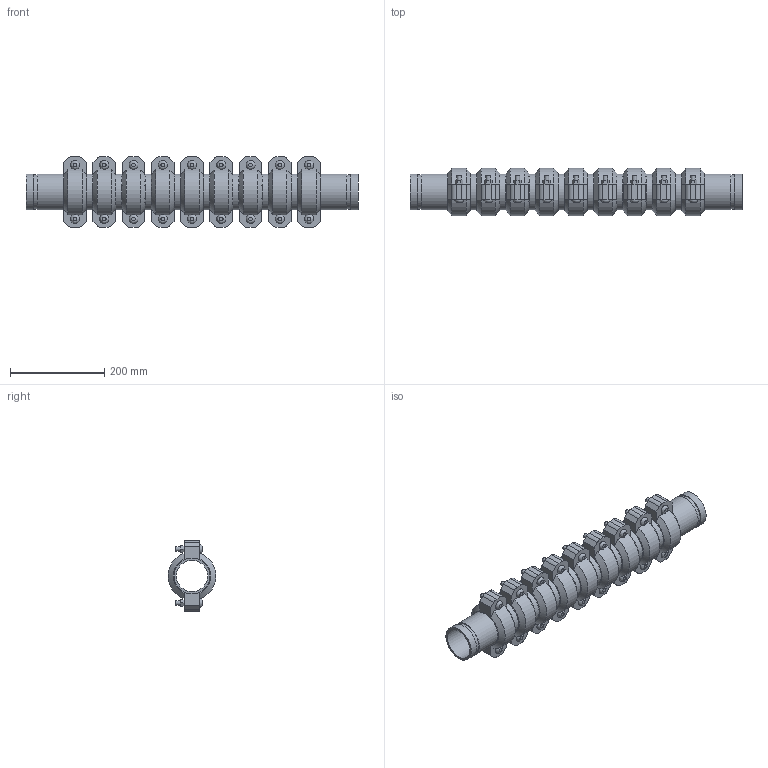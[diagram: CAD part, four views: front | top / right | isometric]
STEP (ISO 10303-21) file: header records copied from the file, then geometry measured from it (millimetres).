
FILE_DESCRIPTION(/* description */ ('VIC EXPANSION JOINT 9 COUPLINGS EXPANDED STYLE 155 (OGS)','CAx-IF Rec.Pracs.---Representation and Presentation of Product Manufacturing Information (PMI)---4.0---2014-10-13'),/* implementation_level */ '2;1');
FILE_NAME(/* name */ 'C:\Users\kkamble\AppData\Roaming\Autodesk\ApplicationPlugins\Victaulic.Temp\A90\Victaulic_IPS_Expansion Joint_Expanded_9 Couplings_Style 155 (OGS)_02.5 (76.1) (65).stp',/* time_stamp */ '2021-06-27T00:11:15+02:00',/* author */ ('kkamble'),/* organization */ ('Victaulic'),/* preprocessor_version */ 'ST-DEVELOPER v17.2',/* originating_system */ 'Autodesk Inventor 2019',/* authorisation */ '');
FILE_SCHEMA (('AP242_MANAGED_MODEL_BASED_3D_ENGINEERING_MIM_LF { 1 0 10303 442 1 1 4 }'));
Length unit declared in the file: inch
Products named in the file (4): 155-02.5 (76.1); Nipple-02.5 (76.1); Nipple-02.5 (76.1)_1; 075-02.5 (76.1)
Assembly tree (19 placements, depth 2):
  155-02.5 (76.1)
    Nipple-02.5 (76.1)  x2
    Nipple-02.5 (76.1)_1  x8
    075-02.5 (76.1)  x9
Bounding box: 703.33 x 101.25 x 149.86 mm (x, y, z)
Volume: 2655302 mm3; surface area: 755650.1 mm2
Topology: 19 solids, 37 shells, 633 faces, 1533 edges, 1068 vertices
Faces by surface type: plane 384, cylinder 195, cone 36, bspline 18
Full cylindrical faces by diameter (mm): 9.525 x36, 11.43 x18, 66.65 x10, 69.85 x9, 72.263 x20, 76.2 x48
Entity records: 2915 total; most frequent: CARTESIAN_POINT 535, DIRECTION 483, ORIENTED_EDGE 394, EDGE_CURVE 197, AXIS2_PLACEMENT_3D 194, VERTEX_POINT 140, EDGE_LOOP 105, LINE 95
